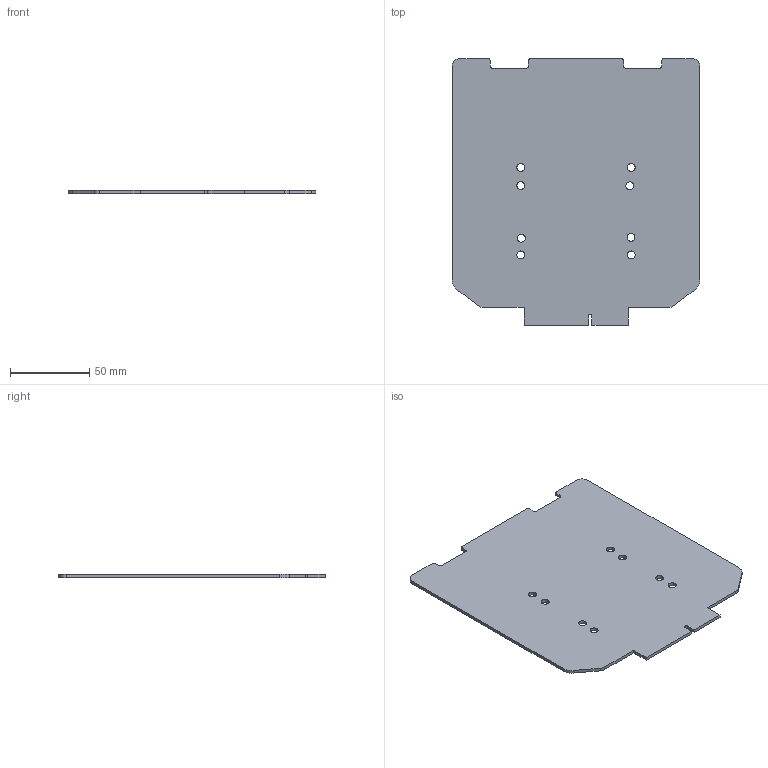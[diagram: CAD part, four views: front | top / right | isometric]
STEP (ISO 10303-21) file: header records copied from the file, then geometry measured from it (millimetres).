
FILE_DESCRIPTION(('Open CASCADE Model'),'2;1');
FILE_NAME('Open CASCADE Shape Model','2026-10-01T15:23:50',('Author'),( 'Open CASCADE'),'Open CASCADE STEP processor 7.9','Open CASCADE 7.9' ,'Unknown');
FILE_SCHEMA(('AUTOMOTIVE_DESIGN { 1 0 10303 214 1 1 1 1 }'));
Length unit declared in the file: millimetre
Products named in the file (1): Open CASCADE STEP translator 7.9 7
Bounding box: 156 x 167.78 x 2 mm (x, y, z)
Volume: 48875.2 mm3; surface area: 50439.7 mm2
Topology: 1 solids, 1 shells, 46 faces, 132 edges, 88 vertices
Faces by surface type: cylinder 23, plane 23
Full cylindrical faces by diameter (mm): 5 x8
Entity records: 3328 total; most frequent: CARTESIAN_POINT 627, DIRECTION 520, LINE 304, VECTOR 304, ORIENTED_EDGE 264, PCURVE 264, DEFINITIONAL_REPRESENTATION 264, EDGE_CURVE 132
